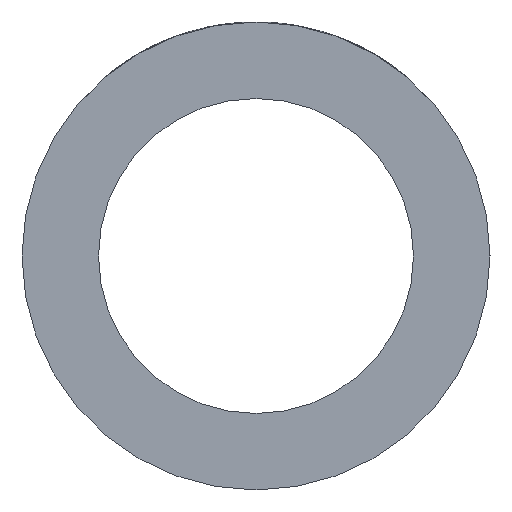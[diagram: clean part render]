
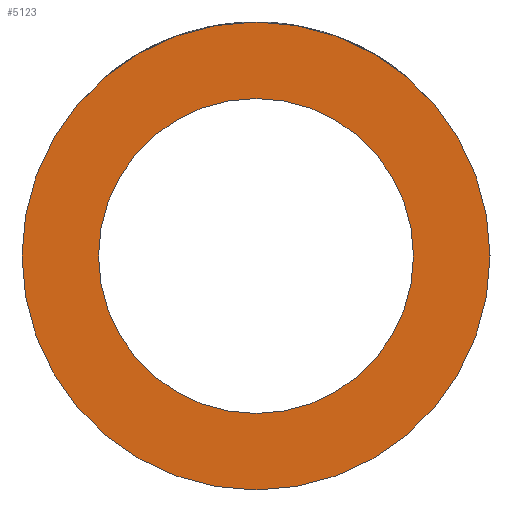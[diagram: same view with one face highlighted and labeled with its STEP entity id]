
A CAD part, left-side view. The second image highlights one B-rep face of the part: STEP entity #5123.
In plain terms, the highlighted planar face has unit normal (-1, 0, 0).
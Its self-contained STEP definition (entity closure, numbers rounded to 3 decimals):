
#122=PLANE('',#5517);
#1194=CIRCLE('',#5518,26.);
#1195=CIRCLE('',#5519,17.5);
#1515=ORIENTED_EDGE('',*,*,#3066,.F.);
#1516=ORIENTED_EDGE('',*,*,#3067,.T.);
#3066=EDGE_CURVE('',#3842,#3842,#1194,.T.);
#3067=EDGE_CURVE('',#3843,#3843,#1195,.T.);
#3842=VERTEX_POINT('',#8236);
#3843=VERTEX_POINT('',#8238);
#4372=EDGE_LOOP('',(#1515));
#4373=EDGE_LOOP('',(#1516));
#4742=FACE_BOUND('',#4372,.T.);
#4743=FACE_BOUND('',#4373,.T.);
#5123=ADVANCED_FACE('',(#4742,#4743),#122,.F.);
#5517=AXIS2_PLACEMENT_3D('',#8234,#6031,#6032);
#5518=AXIS2_PLACEMENT_3D('',#8235,#6033,#6034);
#5519=AXIS2_PLACEMENT_3D('',#8237,#6035,#6036);
#6031=DIRECTION('',(1.,0.,0.));
#6032=DIRECTION('',(0.,0.,-1.));
#6033=DIRECTION('',(1.,0.,0.));
#6034=DIRECTION('',(0.,0.,-1.));
#6035=DIRECTION('',(1.,0.,0.));
#6036=DIRECTION('',(0.,0.,-1.));
#8234=CARTESIAN_POINT('',(-67.5,0.,0.));
#8235=CARTESIAN_POINT('',(-67.5,0.,0.));
#8236=CARTESIAN_POINT('',(-67.5,0.,-26.));
#8237=CARTESIAN_POINT('',(-67.5,0.,0.));
#8238=CARTESIAN_POINT('',(-67.5,0.,-17.5));
